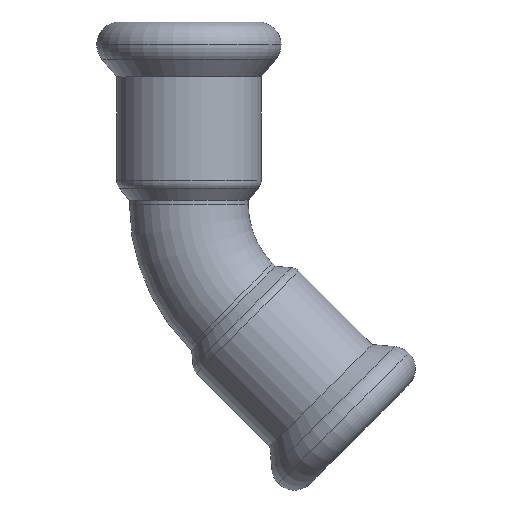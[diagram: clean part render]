
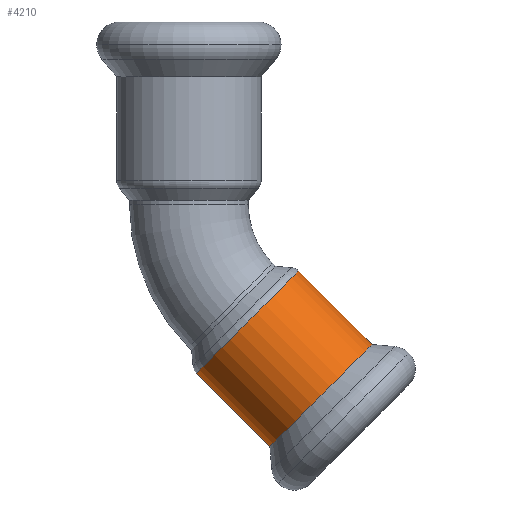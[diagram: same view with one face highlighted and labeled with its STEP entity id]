
A CAD part, top view. The second image highlights one B-rep face of the part: STEP entity #4210.
In plain terms, the highlighted cylindrical face has radius 9.125 mm (diameter 18.25 mm), a partial arc.
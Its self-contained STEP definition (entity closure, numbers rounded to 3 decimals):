
#3260=CARTESIAN_POINT('',(-105.318,41.391,0.));
#3270=VERTEX_POINT('',#3260);
#3440=CARTESIAN_POINT('',(-87.068,41.391,0.));
#3450=VERTEX_POINT('',#3440);
#3480=CARTESIAN_POINT('',(-96.193,41.391,0.));
#3490=DIRECTION('',(0.,-1.,0.));
#3500=DIRECTION('',(-1.,0.,0.));
#3510=AXIS2_PLACEMENT_3D('',#3480,#3490,#3500);
#3520=CIRCLE('',#3510,9.125);
#3530=EDGE_CURVE('',#3270,#3450,#3520,.T.);
#3670=CARTESIAN_POINT('',(-87.068,54.512,0.));
#3680=VERTEX_POINT('',#3670);
#3860=CARTESIAN_POINT('',(-105.318,54.512,
0.));
#3870=VERTEX_POINT('',#3860);
#3900=CARTESIAN_POINT('',(-96.193,54.512,0.));
#3910=DIRECTION('',(0.,1.,0.));
#3920=DIRECTION('',(-1.,0.,0.));
#3930=AXIS2_PLACEMENT_3D('',#3900,#3910,#3920);
#3940=CIRCLE('',#3930,9.125);
#3950=EDGE_CURVE('',#3680,#3870,#3940,.T.);
#4000=CARTESIAN_POINT('',(-96.193,47.688,0.));
#4010=DIRECTION('',(0.,-1.,0.));
#4020=DIRECTION('',(-1.,0.,0.));
#4030=AXIS2_PLACEMENT_3D('',#4000,#4010,#4020);
#4040=CYLINDRICAL_SURFACE('',#4030,9.125);
#4050=CARTESIAN_POINT('',(-87.068,47.688,
0.));
#4060=DIRECTION('',(0.,-1.,0.));
#4070=VECTOR('',#4060,1.);
#4080=LINE('',#4050,#4070);
#4090=EDGE_CURVE('',#3680,#3450,#4080,.T.);
#4100=ORIENTED_EDGE('',*,*,#4090,.T.);
#4110=ORIENTED_EDGE('',*,*,#3950,.F.);
#4120=CARTESIAN_POINT('',(-105.318,47.688,0.));
#4130=DIRECTION('',(0.,-1.,0.));
#4140=VECTOR('',#4130,1.);
#4150=LINE('',#4120,#4140);
#4160=EDGE_CURVE('',#3870,#3270,#4150,.T.);
#4170=ORIENTED_EDGE('',*,*,#4160,.F.);
#4180=ORIENTED_EDGE('',*,*,#3530,.F.);
#4190=EDGE_LOOP('',(#4180,#4170,#4110,#4100));
#4200=FACE_OUTER_BOUND('',#4190,.T.);
#4210=ADVANCED_FACE('',(#4200),#4040,.T.);
